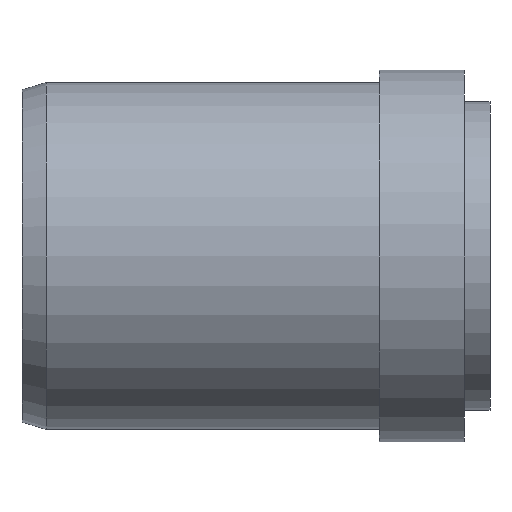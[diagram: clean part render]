
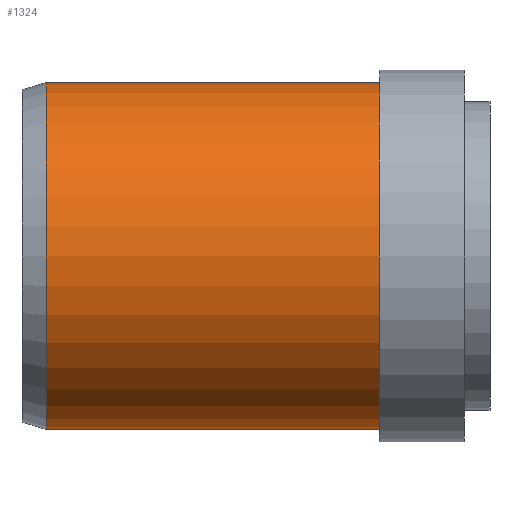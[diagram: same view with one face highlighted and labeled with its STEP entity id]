
A CAD part, front view. The second image highlights one B-rep face of the part: STEP entity #1324.
In plain terms, the highlighted cylindrical face has radius 25.075 mm (diameter 50.15 mm), a full revolution.
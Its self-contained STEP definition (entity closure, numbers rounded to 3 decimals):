
#16=FACE_BOUND($,#203,.T.);
#47=CIRCLE($,#1422,25.075);
#48=CIRCLE($,#1424,25.075);
#60=CYLINDRICAL_SURFACE($,#1423,25.075);
#132=FACE_OUTER_BOUND($,#202,.T.);
#202=EDGE_LOOP($,(#1098));
#203=EDGE_LOOP($,(#1099));
#603=VERTEX_POINT($,#2124);
#604=VERTEX_POINT($,#2127);
#775=EDGE_CURVE($,#603,#603,#47,.T.);
#776=EDGE_CURVE($,#604,#604,#48,.T.);
#1098=ORIENTED_EDGE($,*,*,#776,.F.);
#1099=ORIENTED_EDGE($,*,*,#775,.T.);
#1324=ADVANCED_FACE($,(#132,#16),#60,.T.);
#1422=AXIS2_PLACEMENT_3D($,#2125,#1750,#1751);
#1423=AXIS2_PLACEMENT_3D($,#2126,#1752,#1753);
#1424=AXIS2_PLACEMENT_3D($,#2128,#1754,#1755);
#1750=DIRECTION('center_axis',(1.,0.,0.));
#1751=DIRECTION('ref_axis',(0.,1.,0.));
#1752=DIRECTION('center_axis',(1.,0.,0.));
#1753=DIRECTION('ref_axis',(0.,1.,0.));
#1754=DIRECTION('center_axis',(1.,0.,0.));
#1755=DIRECTION('ref_axis',(0.,1.,0.));
#2124=CARTESIAN_POINT('',(3.5,25.075,0.));
#2125=CARTESIAN_POINT('Origin',(3.5,0.,0.));
#2126=CARTESIAN_POINT('Origin',(27.55,0.,0.));
#2127=CARTESIAN_POINT('',(51.6,25.075,0.));
#2128=CARTESIAN_POINT('Origin',(51.6,0.,0.));
